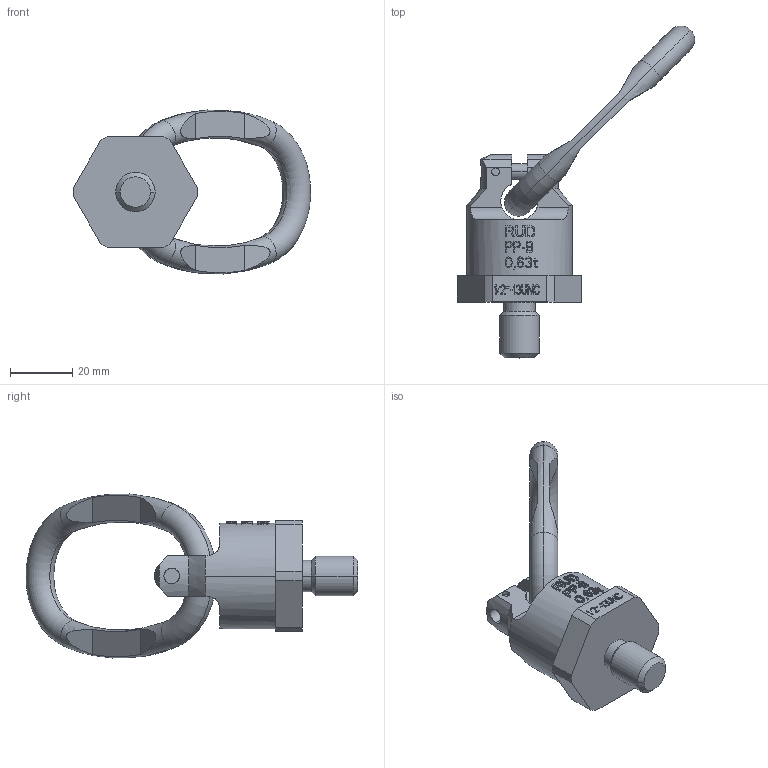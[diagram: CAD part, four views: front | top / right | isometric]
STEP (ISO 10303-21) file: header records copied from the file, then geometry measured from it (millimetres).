
FILE_DESCRIPTION((''),'2;1');
FILE_NAME('001-M31440-P4-45-Z_ASM','2008-10-29T',('Azubitbm'),('RAND'),'PRO/ENGINEER BY PARAMETRIC TECHNOLOGY CORPORATION, 2005030','PRO/ENGINEER BY PARAMETRIC TECHNOLOGY CORPORATION, 2005030','');
FILE_SCHEMA(('CONFIG_CONTROL_DESIGN'));
Length unit declared in the file: millimetre
Products named in the file (4): 001-M31440-002; 001-M31440-007; 001-M31290-006; 001-M31440-P4-45-Z_ASM
Assembly tree (3 placements, depth 2):
  001-M31440-P4-45-Z_ASM
    001-M31440-002
    001-M31440-007
    001-M31290-006
Bounding box: 76.43 x 106.94 x 52.83 mm (x, y, z)
Volume: 43492 mm3; surface area: 14938.7 mm2
Topology: 3 solids, 3 shells, 660 faces, 1832 edges, 1216 vertices
Faces by surface type: plane 593, cylinder 51, cone 8, torus 8
Entity records: 21396 total; most frequent: CARTESIAN_POINT 5247, ORIENTED_EDGE 3664, DIRECTION 2812, EDGE_CURVE 1832, VERTEX_POINT 1216, VECTOR 1118, LINE 1118, AXIS2_PLACEMENT_3D 847
